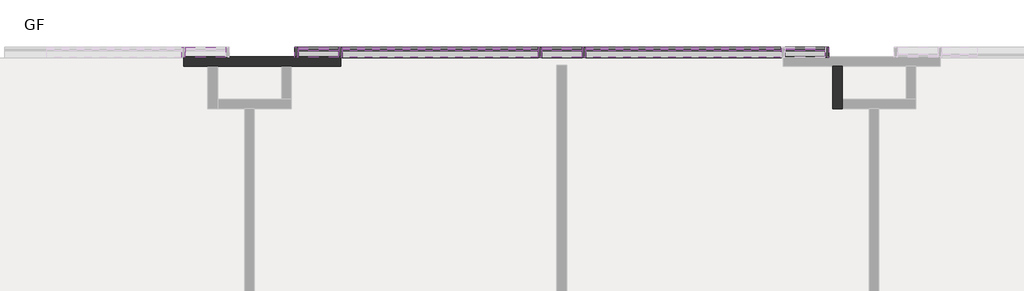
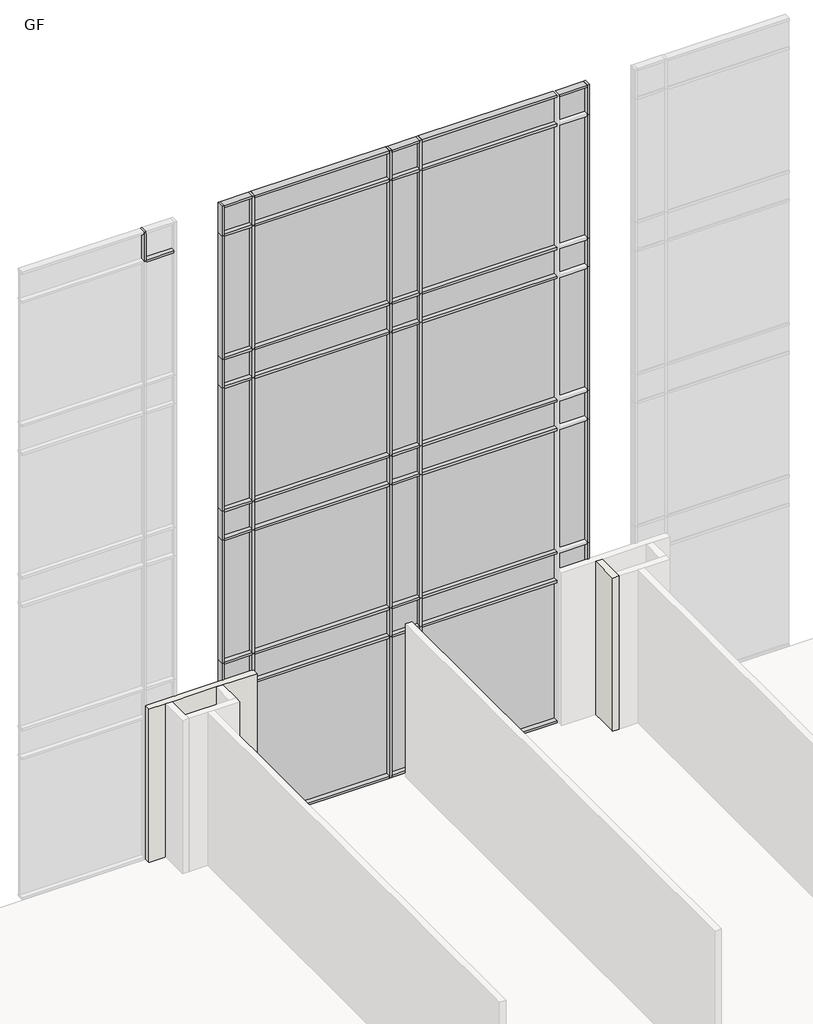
# One storey, part 17 of 23: 81 members, 40 plates, 2 walls.
"""IFC4 building model written with IfcOpenShell, lengths in millimetres."""

from ifc_helpers import new_model, si_unit, origin, place, context, project, spatial, faceted_brep, transform, mapped, element, save
from components import rectangular_mullion_50_x_150mm_64d38db8, rectangular_mullion_50_x_150mm_68b3818a, rectangular_mullion_50_x_150mm_f245f1eb, rectangular_mullion_50_x_150mm_d11e3bb4, rectangular_mullion_50_x_150mm_7d543e93, rectangular_mullion_50_x_150mm_9e0f1e24, rectangular_mullion_50_x_150mm_a95743fc, rectangular_mullion_50_x_150mm_dbb82e9e, rectangular_mullion_50_x_150mm_32aaa733, rectangular_mullion_50_x_150mm_9b8962c0, rectangular_mullion_50_x_150mm_7dcb5a67, rectangular_mullion_50_x_150mm_f1d86669, system_panel_glazed_24812111, system_panel_glazed_e5239730, system_panel_glazed_46705a58, system_panel_glazed_4aba697c, system_panel_glazed_9e59c210, system_panel_glazed_c45102e1

model = new_model("IFC4")

# Units and contexts
model_context = context("Model", 3, world=origin())
ifc_project = project(units=[si_unit("LENGTHUNIT", "METRE", prefix="MILLI")], contexts=[model_context])

# Site, building, storey
site = spatial("IfcSite", under=ifc_project)
building = spatial("IfcBuilding", under=site)
storey = spatial("IfcBuildingStorey", under=building, Name="GF", Elevation=900.0)

# Members
placement = place(None, origin())
rectangular_mullion_50_x_150mm_shape = rectangular_mullion_50_x_150mm_64d38db8(model_context)
element("IfcMember", 1, ObjectType="Rectangular Mullion : 50 x 150mm", at=placement, inside=storey, context=model_context, shape_type="MappedRepresentation", body=[
    mapped(rectangular_mullion_50_x_150mm_shape, transform((-4312.5865899, 21322.3851347, 15125.0), x_axis=(0.0, 0.0, 1.0), y_axis=(0.0, -1.0, 0.0), z_axis=(1.0, 0.0, 0.0))),
])
element("IfcMember", 2, ObjectType="Rectangular Mullion : 50 x 150mm", at=placement, inside=storey, context=model_context, shape_type="MappedRepresentation", body=[
    mapped(rectangular_mullion_50_x_150mm_shape, transform((-11502.5865899, 21322.3851347, 15125.0), x_axis=(0.0, 0.0, 1.0), y_axis=(0.0, -1.0, 0.0), z_axis=(1.0, 0.0, 0.0))),
])
element("IfcMember", 3, ObjectType="Rectangular Mullion : 50 x 150mm", at=placement, inside=storey, context=model_context, shape_type="MappedRepresentation", body=[
    mapped(rectangular_mullion_50_x_150mm_shape, transform((-7907.5865899, 21322.3851347, 15125.0), x_axis=(0.0, 0.0, 1.0), y_axis=(0.0, -1.0, 0.0), z_axis=(1.0, 0.0, 0.0))),
])
element("IfcMember", 4, ObjectType="Rectangular Mullion : 50 x 150mm", at=placement, inside=storey, context=model_context, shape_type="MappedRepresentation", body=[
    mapped(rectangular_mullion_50_x_150mm_shape, transform((-12102.5865899, 21322.3851347, 900.0), x_axis=(0.0, 0.0, -1.0), y_axis=(0.0, -1.0, 0.0), z_axis=(-1.0, 0.0, 0.0))),
])
element("IfcMember", 5, ObjectType="Rectangular Mullion : 50 x 150mm", at=placement, inside=storey, context=model_context, shape_type="MappedRepresentation", body=[
    mapped(rectangular_mullion_50_x_150mm_shape, transform((-8507.5865899, 21322.3851347, 900.0), x_axis=(0.0, 0.0, -1.0), y_axis=(0.0, -1.0, 0.0), z_axis=(-1.0, 0.0, 0.0))),
])
element("IfcMember", 6, ObjectType="Rectangular Mullion : 50 x 150mm", at=placement, inside=storey, context=model_context, shape_type="MappedRepresentation", body=[
    mapped(rectangular_mullion_50_x_150mm_shape, transform((-4912.5865899, 21322.3851347, 900.0), x_axis=(0.0, 0.0, -1.0), y_axis=(0.0, -1.0, 0.0), z_axis=(-1.0, 0.0, 0.0))),
])
rectangular_mullion_50_x_150mm_2_shape = rectangular_mullion_50_x_150mm_68b3818a(model_context)
element("IfcMember", 7, ObjectType="Rectangular Mullion : 50 x 150mm", at=placement, inside=storey, context=model_context, shape_type="MappedRepresentation", body=[
    mapped(rectangular_mullion_50_x_150mm_2_shape, transform((-13172.5865899, 21322.3851347, 14450.0), x_axis=(0.0, 0.0, 1.0), y_axis=(0.0, -1.0, 0.0), z_axis=(1.0, 0.0, 0.0))),
])
element("IfcMember", 8, ObjectType="Rectangular Mullion : 50 x 150mm", at=placement, inside=storey, context=model_context, shape_type="MappedRepresentation", body=[
    mapped(rectangular_mullion_50_x_150mm_2_shape, transform((-11502.5865899, 21322.3851347, 4750.0), x_axis=(0.0, 0.0, 1.0), y_axis=(0.0, -1.0, 0.0), z_axis=(1.0, 0.0, 0.0))),
])
element("IfcMember", 9, ObjectType="Rectangular Mullion : 50 x 150mm", at=placement, inside=storey, context=model_context, shape_type="MappedRepresentation", body=[
    mapped(rectangular_mullion_50_x_150mm_2_shape, transform((-7907.5865899, 21322.3851347, 4750.0), x_axis=(0.0, 0.0, 1.0), y_axis=(0.0, -1.0, 0.0), z_axis=(1.0, 0.0, 0.0))),
])
element("IfcMember", 10, ObjectType="Rectangular Mullion : 50 x 150mm", at=placement, inside=storey, context=model_context, shape_type="MappedRepresentation", body=[
    mapped(rectangular_mullion_50_x_150mm_2_shape, transform((-11502.5865899, 21322.3851347, 4100.0), x_axis=(0.0, 0.0, 1.0), y_axis=(0.0, -1.0, 0.0), z_axis=(1.0, 0.0, 0.0))),
])
element("IfcMember", 11, ObjectType="Rectangular Mullion : 50 x 150mm", at=placement, inside=storey, context=model_context, shape_type="MappedRepresentation", body=[
    mapped(rectangular_mullion_50_x_150mm_2_shape, transform((-7907.5865899, 21322.3851347, 4100.0), x_axis=(0.0, 0.0, 1.0), y_axis=(0.0, -1.0, 0.0), z_axis=(1.0, 0.0, 0.0))),
])
element("IfcMember", 12, ObjectType="Rectangular Mullion : 50 x 150mm", at=placement, inside=storey, context=model_context, shape_type="MappedRepresentation", body=[
    mapped(rectangular_mullion_50_x_150mm_2_shape, transform((-11502.5865899, 21322.3851347, 8200.0), x_axis=(0.0, 0.0, 1.0), y_axis=(0.0, -1.0, 0.0), z_axis=(1.0, 0.0, 0.0))),
])
element("IfcMember", 13, ObjectType="Rectangular Mullion : 50 x 150mm", at=placement, inside=storey, context=model_context, shape_type="MappedRepresentation", body=[
    mapped(rectangular_mullion_50_x_150mm_2_shape, transform((-7907.5865899, 21322.3851347, 8200.0), x_axis=(0.0, 0.0, 1.0), y_axis=(0.0, -1.0, 0.0), z_axis=(1.0, 0.0, 0.0))),
])
element("IfcMember", 14, ObjectType="Rectangular Mullion : 50 x 150mm", at=placement, inside=storey, context=model_context, shape_type="MappedRepresentation", body=[
    mapped(rectangular_mullion_50_x_150mm_2_shape, transform((-11502.5865899, 21322.3851347, 11650.0), x_axis=(0.0, 0.0, 1.0), y_axis=(0.0, -1.0, 0.0), z_axis=(1.0, 0.0, 0.0))),
])
element("IfcMember", 15, ObjectType="Rectangular Mullion : 50 x 150mm", at=placement, inside=storey, context=model_context, shape_type="MappedRepresentation", body=[
    mapped(rectangular_mullion_50_x_150mm_2_shape, transform((-7907.5865899, 21322.3851347, 11650.0), x_axis=(0.0, 0.0, 1.0), y_axis=(0.0, -1.0, 0.0), z_axis=(1.0, 0.0, 0.0))),
])
element("IfcMember", 16, ObjectType="Rectangular Mullion : 50 x 150mm", at=placement, inside=storey, context=model_context, shape_type="MappedRepresentation", body=[
    mapped(rectangular_mullion_50_x_150mm_2_shape, transform((-11502.5865899, 21322.3851347, 7550.0), x_axis=(0.0, 0.0, 1.0), y_axis=(0.0, -1.0, 0.0), z_axis=(1.0, 0.0, 0.0))),
])
element("IfcMember", 17, ObjectType="Rectangular Mullion : 50 x 150mm", at=placement, inside=storey, context=model_context, shape_type="MappedRepresentation", body=[
    mapped(rectangular_mullion_50_x_150mm_2_shape, transform((-7907.5865899, 21322.3851347, 7550.0), x_axis=(0.0, 0.0, 1.0), y_axis=(0.0, -1.0, 0.0), z_axis=(1.0, 0.0, 0.0))),
])
element("IfcMember", 18, ObjectType="Rectangular Mullion : 50 x 150mm", at=placement, inside=storey, context=model_context, shape_type="MappedRepresentation", body=[
    mapped(rectangular_mullion_50_x_150mm_2_shape, transform((-11502.5865899, 21322.3851347, 11000.0), x_axis=(0.0, 0.0, 1.0), y_axis=(0.0, -1.0, 0.0), z_axis=(1.0, 0.0, 0.0))),
])
element("IfcMember", 19, ObjectType="Rectangular Mullion : 50 x 150mm", at=placement, inside=storey, context=model_context, shape_type="MappedRepresentation", body=[
    mapped(rectangular_mullion_50_x_150mm_2_shape, transform((-7907.5865899, 21322.3851347, 11000.0), x_axis=(0.0, 0.0, 1.0), y_axis=(0.0, -1.0, 0.0), z_axis=(1.0, 0.0, 0.0))),
])
element("IfcMember", 20, ObjectType="Rectangular Mullion : 50 x 150mm", at=placement, inside=storey, context=model_context, shape_type="MappedRepresentation", body=[
    mapped(rectangular_mullion_50_x_150mm_2_shape, transform((-11502.5865899, 21322.3851347, 14450.0), x_axis=(0.0, 0.0, 1.0), y_axis=(0.0, -1.0, 0.0), z_axis=(1.0, 0.0, 0.0))),
])
element("IfcMember", 21, ObjectType="Rectangular Mullion : 50 x 150mm", at=placement, inside=storey, context=model_context, shape_type="MappedRepresentation", body=[
    mapped(rectangular_mullion_50_x_150mm_2_shape, transform((-7907.5865899, 21322.3851347, 14450.0), x_axis=(0.0, 0.0, 1.0), y_axis=(0.0, -1.0, 0.0), z_axis=(1.0, 0.0, 0.0))),
])
element("IfcMember", 22, ObjectType="Rectangular Mullion : 50 x 150mm", at=placement, inside=storey, context=model_context, shape_type="MappedRepresentation", body=[
    mapped(rectangular_mullion_50_x_150mm_2_shape, transform((-4312.5865899, 21322.3851347, 4100.0), x_axis=(0.0, 0.0, 1.0), y_axis=(0.0, -1.0, 0.0), z_axis=(1.0, 0.0, 0.0))),
])
rectangular_mullion_50_x_150mm_3_shape = rectangular_mullion_50_x_150mm_f245f1eb(model_context)
element("IfcMember", 23, ObjectType="Rectangular Mullion : 50 x 150mm", at=placement, inside=storey, context=model_context, shape_type="MappedRepresentation", body=[
    mapped(rectangular_mullion_50_x_150mm_3_shape, transform((-11477.5865899, 21322.3851347, 900.0), x_axis=(1.0, 0.0, 0.0), y_axis=(0.0, -1.0, 0.0), z_axis=(0.0, 0.0, -1.0))),
])
element("IfcMember", 24, ObjectType="Rectangular Mullion : 50 x 150mm", at=placement, inside=storey, context=model_context, shape_type="MappedRepresentation", body=[
    mapped(rectangular_mullion_50_x_150mm_3_shape, transform((-8532.5865899, 21322.3851347, 900.0), x_axis=(1.0, 0.0, 0.0), y_axis=(0.0, -1.0, 0.0), z_axis=(0.0, 0.0, -1.0))),
])
element("IfcMember", 25, ObjectType="Rectangular Mullion : 50 x 150mm", at=placement, inside=storey, context=model_context, shape_type="MappedRepresentation", body=[
    mapped(rectangular_mullion_50_x_150mm_3_shape, transform((-7882.5865899, 21322.3851347, 900.0), x_axis=(1.0, 0.0, 0.0), y_axis=(0.0, -1.0, 0.0), z_axis=(0.0, 0.0, -1.0))),
])
rectangular_mullion_50_x_150mm_4_shape = rectangular_mullion_50_x_150mm_d11e3bb4(model_context)
element("IfcMember", 26, ObjectType="Rectangular Mullion : 50 x 150mm", at=placement, inside=storey, context=model_context, shape_type="MappedRepresentation", body=[
    mapped(rectangular_mullion_50_x_150mm_4_shape, transform((-11477.5865899, 21322.3851347, 4750.0), x_axis=(1.0, 0.0, 0.0), y_axis=(0.0, -1.0, 0.0), z_axis=(0.0, 0.0, -1.0))),
])
element("IfcMember", 27, ObjectType="Rectangular Mullion : 50 x 150mm", at=placement, inside=storey, context=model_context, shape_type="MappedRepresentation", body=[
    mapped(rectangular_mullion_50_x_150mm_4_shape, transform((-8532.5865899, 21322.3851347, 4750.0), x_axis=(1.0, 0.0, 0.0), y_axis=(0.0, -1.0, 0.0), z_axis=(0.0, 0.0, -1.0))),
])
element("IfcMember", 28, ObjectType="Rectangular Mullion : 50 x 150mm", at=placement, inside=storey, context=model_context, shape_type="MappedRepresentation", body=[
    mapped(rectangular_mullion_50_x_150mm_4_shape, transform((-11477.5865899, 21322.3851347, 8200.0), x_axis=(1.0, 0.0, 0.0), y_axis=(0.0, -1.0, 0.0), z_axis=(0.0, 0.0, -1.0))),
])
element("IfcMember", 29, ObjectType="Rectangular Mullion : 50 x 150mm", at=placement, inside=storey, context=model_context, shape_type="MappedRepresentation", body=[
    mapped(rectangular_mullion_50_x_150mm_4_shape, transform((-8532.5865899, 21322.3851347, 8200.0), x_axis=(1.0, 0.0, 0.0), y_axis=(0.0, -1.0, 0.0), z_axis=(0.0, 0.0, -1.0))),
])
element("IfcMember", 30, ObjectType="Rectangular Mullion : 50 x 150mm", at=placement, inside=storey, context=model_context, shape_type="MappedRepresentation", body=[
    mapped(rectangular_mullion_50_x_150mm_4_shape, transform((-11477.5865899, 21322.3851347, 11650.0), x_axis=(1.0, 0.0, 0.0), y_axis=(0.0, -1.0, 0.0), z_axis=(0.0, 0.0, -1.0))),
])
element("IfcMember", 31, ObjectType="Rectangular Mullion : 50 x 150mm", at=placement, inside=storey, context=model_context, shape_type="MappedRepresentation", body=[
    mapped(rectangular_mullion_50_x_150mm_4_shape, transform((-8532.5865899, 21322.3851347, 11650.0), x_axis=(1.0, 0.0, 0.0), y_axis=(0.0, -1.0, 0.0), z_axis=(0.0, 0.0, -1.0))),
])
element("IfcMember", 32, ObjectType="Rectangular Mullion : 50 x 150mm", at=placement, inside=storey, context=model_context, shape_type="MappedRepresentation", body=[
    mapped(rectangular_mullion_50_x_150mm_4_shape, transform((-7882.5865899, 21322.3851347, 4750.0), x_axis=(1.0, 0.0, 0.0), y_axis=(0.0, -1.0, 0.0), z_axis=(0.0, 0.0, -1.0))),
])
element("IfcMember", 33, ObjectType="Rectangular Mullion : 50 x 150mm", at=placement, inside=storey, context=model_context, shape_type="MappedRepresentation", body=[
    mapped(rectangular_mullion_50_x_150mm_4_shape, transform((-7882.5865899, 21322.3851347, 8200.0), x_axis=(1.0, 0.0, 0.0), y_axis=(0.0, -1.0, 0.0), z_axis=(0.0, 0.0, -1.0))),
])
element("IfcMember", 34, ObjectType="Rectangular Mullion : 50 x 150mm", at=placement, inside=storey, context=model_context, shape_type="MappedRepresentation", body=[
    mapped(rectangular_mullion_50_x_150mm_4_shape, transform((-7882.5865899, 21322.3851347, 11650.0), x_axis=(1.0, 0.0, 0.0), y_axis=(0.0, -1.0, 0.0), z_axis=(0.0, 0.0, -1.0))),
])
rectangular_mullion_50_x_150mm_5_shape = rectangular_mullion_50_x_150mm_7d543e93(model_context)
element("IfcMember", 35, ObjectType="Rectangular Mullion : 50 x 150mm", at=placement, inside=storey, context=model_context, shape_type="MappedRepresentation", body=[
    mapped(rectangular_mullion_50_x_150mm_5_shape, transform((-11477.5865899, 21322.3851347, 4100.0), x_axis=(1.0, 0.0, 0.0), y_axis=(0.0, -1.0, 0.0), z_axis=(0.0, 0.0, -1.0))),
])
element("IfcMember", 36, ObjectType="Rectangular Mullion : 50 x 150mm", at=placement, inside=storey, context=model_context, shape_type="MappedRepresentation", body=[
    mapped(rectangular_mullion_50_x_150mm_5_shape, transform((-8532.5865899, 21322.3851347, 4100.0), x_axis=(1.0, 0.0, 0.0), y_axis=(0.0, -1.0, 0.0), z_axis=(0.0, 0.0, -1.0))),
])
element("IfcMember", 37, ObjectType="Rectangular Mullion : 50 x 150mm", at=placement, inside=storey, context=model_context, shape_type="MappedRepresentation", body=[
    mapped(rectangular_mullion_50_x_150mm_5_shape, transform((-11477.5865899, 21322.3851347, 7550.0), x_axis=(1.0, 0.0, 0.0), y_axis=(0.0, -1.0, 0.0), z_axis=(0.0, 0.0, -1.0))),
])
element("IfcMember", 38, ObjectType="Rectangular Mullion : 50 x 150mm", at=placement, inside=storey, context=model_context, shape_type="MappedRepresentation", body=[
    mapped(rectangular_mullion_50_x_150mm_5_shape, transform((-8532.5865899, 21322.3851347, 7550.0), x_axis=(1.0, 0.0, 0.0), y_axis=(0.0, -1.0, 0.0), z_axis=(0.0, 0.0, -1.0))),
])
element("IfcMember", 39, ObjectType="Rectangular Mullion : 50 x 150mm", at=placement, inside=storey, context=model_context, shape_type="MappedRepresentation", body=[
    mapped(rectangular_mullion_50_x_150mm_5_shape, transform((-11477.5865899, 21322.3851347, 11000.0), x_axis=(1.0, 0.0, 0.0), y_axis=(0.0, -1.0, 0.0), z_axis=(0.0, 0.0, -1.0))),
])
element("IfcMember", 40, ObjectType="Rectangular Mullion : 50 x 150mm", at=placement, inside=storey, context=model_context, shape_type="MappedRepresentation", body=[
    mapped(rectangular_mullion_50_x_150mm_5_shape, transform((-8532.5865899, 21322.3851347, 11000.0), x_axis=(1.0, 0.0, 0.0), y_axis=(0.0, -1.0, 0.0), z_axis=(0.0, 0.0, -1.0))),
])
element("IfcMember", 41, ObjectType="Rectangular Mullion : 50 x 150mm", at=placement, inside=storey, context=model_context, shape_type="MappedRepresentation", body=[
    mapped(rectangular_mullion_50_x_150mm_5_shape, transform((-7882.5865899, 21322.3851347, 4100.0), x_axis=(1.0, 0.0, 0.0), y_axis=(0.0, -1.0, 0.0), z_axis=(0.0, 0.0, -1.0))),
])
element("IfcMember", 42, ObjectType="Rectangular Mullion : 50 x 150mm", at=placement, inside=storey, context=model_context, shape_type="MappedRepresentation", body=[
    mapped(rectangular_mullion_50_x_150mm_5_shape, transform((-7882.5865899, 21322.3851347, 7550.0), x_axis=(1.0, 0.0, 0.0), y_axis=(0.0, -1.0, 0.0), z_axis=(0.0, 0.0, -1.0))),
])
element("IfcMember", 43, ObjectType="Rectangular Mullion : 50 x 150mm", at=placement, inside=storey, context=model_context, shape_type="MappedRepresentation", body=[
    mapped(rectangular_mullion_50_x_150mm_5_shape, transform((-7882.5865899, 21322.3851347, 11000.0), x_axis=(1.0, 0.0, 0.0), y_axis=(0.0, -1.0, 0.0), z_axis=(0.0, 0.0, -1.0))),
])
rectangular_mullion_50_x_150mm_6_shape = rectangular_mullion_50_x_150mm_9e0f1e24(model_context)
element("IfcMember", 44, ObjectType="Rectangular Mullion : 50 x 150mm", at=placement, inside=storey, context=model_context, shape_type="MappedRepresentation", body=[
    mapped(rectangular_mullion_50_x_150mm_6_shape, transform((-13797.5865899, 21322.3851347, 14450.0), x_axis=(1.0, 0.0, 0.0), y_axis=(0.0, -1.0, 0.0), z_axis=(0.0, 0.0, -1.0))),
])
element("IfcMember", 45, ObjectType="Rectangular Mullion : 50 x 150mm", at=placement, inside=storey, context=model_context, shape_type="MappedRepresentation", body=[
    mapped(rectangular_mullion_50_x_150mm_6_shape, transform((-11477.5865899, 21322.3851347, 14450.0), x_axis=(1.0, 0.0, 0.0), y_axis=(0.0, -1.0, 0.0), z_axis=(0.0, 0.0, -1.0))),
])
element("IfcMember", 46, ObjectType="Rectangular Mullion : 50 x 150mm", at=placement, inside=storey, context=model_context, shape_type="MappedRepresentation", body=[
    mapped(rectangular_mullion_50_x_150mm_6_shape, transform((-8532.5865899, 21322.3851347, 14450.0), x_axis=(1.0, 0.0, 0.0), y_axis=(0.0, -1.0, 0.0), z_axis=(0.0, 0.0, -1.0))),
])
element("IfcMember", 47, ObjectType="Rectangular Mullion : 50 x 150mm", at=placement, inside=storey, context=model_context, shape_type="MappedRepresentation", body=[
    mapped(rectangular_mullion_50_x_150mm_6_shape, transform((-7882.5865899, 21322.3851347, 14450.0), x_axis=(1.0, 0.0, 0.0), y_axis=(0.0, -1.0, 0.0), z_axis=(0.0, 0.0, -1.0))),
])
rectangular_mullion_50_x_150mm_7_shape = rectangular_mullion_50_x_150mm_a95743fc(model_context)
element("IfcMember", 48, ObjectType="Rectangular Mullion : 50 x 150mm", at=placement, inside=storey, context=model_context, shape_type="MappedRepresentation", body=[
    mapped(rectangular_mullion_50_x_150mm_7_shape, transform((-4262.5865899, 21322.3851347, 900.0), x_axis=(1.0, 0.0, 0.0), y_axis=(0.0, -1.0, 0.0), z_axis=(0.0, 0.0, -1.0))),
])
rectangular_mullion_50_x_150mm_8_shape = rectangular_mullion_50_x_150mm_dbb82e9e(model_context)
element("IfcMember", 49, ObjectType="Rectangular Mullion : 50 x 150mm", at=placement, inside=storey, context=model_context, shape_type="MappedRepresentation", body=[
    mapped(rectangular_mullion_50_x_150mm_8_shape, transform((-12152.5865899, 21322.3851347, 15125.0), x_axis=(-1.0, 0.0, 0.0), y_axis=(0.0, -1.0, 0.0), z_axis=(0.0, 0.0, 1.0))),
])
rectangular_mullion_50_x_150mm_9_shape = rectangular_mullion_50_x_150mm_32aaa733(model_context)
element("IfcMember", 50, ObjectType="Rectangular Mullion : 50 x 150mm", at=placement, inside=storey, context=model_context, shape_type="MappedRepresentation", body=[
    mapped(rectangular_mullion_50_x_150mm_9_shape, transform((-4262.5865899, 21322.3851347, 4750.0), x_axis=(1.0, 0.0, 0.0), y_axis=(0.0, -1.0, 0.0), z_axis=(0.0, 0.0, -1.0))),
])
element("IfcMember", 51, ObjectType="Rectangular Mullion : 50 x 150mm", at=placement, inside=storey, context=model_context, shape_type="MappedRepresentation", body=[
    mapped(rectangular_mullion_50_x_150mm_9_shape, transform((-4262.5865899, 21322.3851347, 8200.0), x_axis=(1.0, 0.0, 0.0), y_axis=(0.0, -1.0, 0.0), z_axis=(0.0, 0.0, -1.0))),
])
element("IfcMember", 52, ObjectType="Rectangular Mullion : 50 x 150mm", at=placement, inside=storey, context=model_context, shape_type="MappedRepresentation", body=[
    mapped(rectangular_mullion_50_x_150mm_9_shape, transform((-4262.5865899, 21322.3851347, 11650.0), x_axis=(1.0, 0.0, 0.0), y_axis=(0.0, -1.0, 0.0), z_axis=(0.0, 0.0, -1.0))),
])
rectangular_mullion_50_x_150mm_10_shape = rectangular_mullion_50_x_150mm_9b8962c0(model_context)
element("IfcMember", 53, ObjectType="Rectangular Mullion : 50 x 150mm", at=placement, inside=storey, context=model_context, shape_type="MappedRepresentation", body=[
    mapped(rectangular_mullion_50_x_150mm_10_shape, transform((-12152.5865899, 21322.3851347, 4750.0), x_axis=(-1.0, 0.0, 0.0), y_axis=(0.0, -1.0, 0.0), z_axis=(0.0, 0.0, 1.0))),
])
element("IfcMember", 54, ObjectType="Rectangular Mullion : 50 x 150mm", at=placement, inside=storey, context=model_context, shape_type="MappedRepresentation", body=[
    mapped(rectangular_mullion_50_x_150mm_10_shape, transform((-12152.5865899, 21322.3851347, 8200.0), x_axis=(-1.0, 0.0, 0.0), y_axis=(0.0, -1.0, 0.0), z_axis=(0.0, 0.0, 1.0))),
])
element("IfcMember", 55, ObjectType="Rectangular Mullion : 50 x 150mm", at=placement, inside=storey, context=model_context, shape_type="MappedRepresentation", body=[
    mapped(rectangular_mullion_50_x_150mm_10_shape, transform((-12152.5865899, 21322.3851347, 11650.0), x_axis=(-1.0, 0.0, 0.0), y_axis=(0.0, -1.0, 0.0), z_axis=(0.0, 0.0, 1.0))),
])
element("IfcMember", 56, ObjectType="Rectangular Mullion : 50 x 150mm", at=placement, inside=storey, context=model_context, shape_type="MappedRepresentation", body=[
    mapped(rectangular_mullion_50_x_150mm_10_shape, transform((-4262.5865899, 21322.3851347, 4100.0), x_axis=(1.0, 0.0, 0.0), y_axis=(0.0, -1.0, 0.0), z_axis=(0.0, 0.0, -1.0))),
])
element("IfcMember", 57, ObjectType="Rectangular Mullion : 50 x 150mm", at=placement, inside=storey, context=model_context, shape_type="MappedRepresentation", body=[
    mapped(rectangular_mullion_50_x_150mm_10_shape, transform((-4262.5865899, 21322.3851347, 7550.0), x_axis=(1.0, 0.0, 0.0), y_axis=(0.0, -1.0, 0.0), z_axis=(0.0, 0.0, -1.0))),
])
element("IfcMember", 58, ObjectType="Rectangular Mullion : 50 x 150mm", at=placement, inside=storey, context=model_context, shape_type="MappedRepresentation", body=[
    mapped(rectangular_mullion_50_x_150mm_10_shape, transform((-4262.5865899, 21322.3851347, 11000.0), x_axis=(1.0, 0.0, 0.0), y_axis=(0.0, -1.0, 0.0), z_axis=(0.0, 0.0, -1.0))),
])
element("IfcMember", 59, ObjectType="Rectangular Mullion : 50 x 150mm", at=placement, inside=storey, context=model_context, shape_type="MappedRepresentation", body=[
    mapped(rectangular_mullion_50_x_150mm_7_shape, transform((-12152.5865899, 21322.3851347, 4100.0), x_axis=(-1.0, 0.0, 0.0), y_axis=(0.0, -1.0, 0.0), z_axis=(0.0, 0.0, 1.0))),
])
element("IfcMember", 60, ObjectType="Rectangular Mullion : 50 x 150mm", at=placement, inside=storey, context=model_context, shape_type="MappedRepresentation", body=[
    mapped(rectangular_mullion_50_x_150mm_9_shape, transform((-12152.5865899, 21322.3851347, 7550.0), x_axis=(-1.0, 0.0, 0.0), y_axis=(0.0, -1.0, 0.0), z_axis=(0.0, 0.0, 1.0))),
])
element("IfcMember", 61, ObjectType="Rectangular Mullion : 50 x 150mm", at=placement, inside=storey, context=model_context, shape_type="MappedRepresentation", body=[
    mapped(rectangular_mullion_50_x_150mm_9_shape, transform((-12152.5865899, 21322.3851347, 11000.0), x_axis=(-1.0, 0.0, 0.0), y_axis=(0.0, -1.0, 0.0), z_axis=(0.0, 0.0, 1.0))),
])
element("IfcMember", 62, ObjectType="Rectangular Mullion : 50 x 150mm", at=placement, inside=storey, context=model_context, shape_type="MappedRepresentation", body=[
    mapped(rectangular_mullion_50_x_150mm_9_shape, transform((-12152.5865899, 21322.3851347, 14450.0), x_axis=(-1.0, 0.0, 0.0), y_axis=(0.0, -1.0, 0.0), z_axis=(0.0, 0.0, 1.0))),
])
element("IfcMember", 63, ObjectType="Rectangular Mullion : 50 x 150mm", at=placement, inside=storey, context=model_context, shape_type="MappedRepresentation", body=[
    mapped(rectangular_mullion_50_x_150mm_8_shape, transform((-4262.5865899, 21322.3851347, 14450.0), x_axis=(1.0, 0.0, 0.0), y_axis=(0.0, -1.0, 0.0), z_axis=(0.0, 0.0, -1.0))),
])
rectangular_mullion_50_x_150mm_11_shape = rectangular_mullion_50_x_150mm_7dcb5a67(model_context)
element("IfcMember", 64, ObjectType="Rectangular Mullion : 50 x 150mm", at=placement, inside=storey, context=model_context, shape_type="MappedRepresentation", body=[
    mapped(rectangular_mullion_50_x_150mm_11_shape, transform((-11452.5865899, 21322.3851347, 900.0), x_axis=(0.0, 0.0, -1.0), y_axis=(0.0, -1.0, 0.0), z_axis=(-1.0, 0.0, 0.0))),
])
element("IfcMember", 65, ObjectType="Rectangular Mullion : 50 x 150mm", at=placement, inside=storey, context=model_context, shape_type="MappedRepresentation", body=[
    mapped(rectangular_mullion_50_x_150mm_11_shape, transform((-7857.5865899, 21322.3851347, 900.0), x_axis=(0.0, 0.0, -1.0), y_axis=(0.0, -1.0, 0.0), z_axis=(-1.0, 0.0, 0.0))),
])
element("IfcMember", 66, ObjectType="Rectangular Mullion : 50 x 150mm", at=placement, inside=storey, context=model_context, shape_type="MappedRepresentation", body=[
    mapped(rectangular_mullion_50_x_150mm_11_shape, transform((-8557.5865899, 21322.3851347, 15125.0), x_axis=(0.0, 0.0, 1.0), y_axis=(0.0, -1.0, 0.0), z_axis=(1.0, 0.0, 0.0))),
])
element("IfcMember", 67, ObjectType="Rectangular Mullion : 50 x 150mm", at=placement, inside=storey, context=model_context, shape_type="MappedRepresentation", body=[
    mapped(rectangular_mullion_50_x_150mm_11_shape, transform((-4962.5865899, 21322.3851347, 15125.0), x_axis=(0.0, 0.0, 1.0), y_axis=(0.0, -1.0, 0.0), z_axis=(1.0, 0.0, 0.0))),
])
rectangular_mullion_50_x_150mm_12_shape = rectangular_mullion_50_x_150mm_f1d86669(model_context)
element("IfcMember", 68, ObjectType="Rectangular Mullion : 50 x 150mm", at=placement, inside=storey, context=model_context, shape_type="MappedRepresentation", body=[
    mapped(rectangular_mullion_50_x_150mm_12_shape, transform((-8557.5865899, 21322.3851347, 4750.0), x_axis=(0.0, 0.0, 1.0), y_axis=(0.0, -1.0, 0.0), z_axis=(1.0, 0.0, 0.0))),
])
element("IfcMember", 69, ObjectType="Rectangular Mullion : 50 x 150mm", at=placement, inside=storey, context=model_context, shape_type="MappedRepresentation", body=[
    mapped(rectangular_mullion_50_x_150mm_12_shape, transform((-8557.5865899, 21322.3851347, 4100.0), x_axis=(0.0, 0.0, 1.0), y_axis=(0.0, -1.0, 0.0), z_axis=(1.0, 0.0, 0.0))),
])
element("IfcMember", 70, ObjectType="Rectangular Mullion : 50 x 150mm", at=placement, inside=storey, context=model_context, shape_type="MappedRepresentation", body=[
    mapped(rectangular_mullion_50_x_150mm_12_shape, transform((-8557.5865899, 21322.3851347, 8200.0), x_axis=(0.0, 0.0, 1.0), y_axis=(0.0, -1.0, 0.0), z_axis=(1.0, 0.0, 0.0))),
])
element("IfcMember", 71, ObjectType="Rectangular Mullion : 50 x 150mm", at=placement, inside=storey, context=model_context, shape_type="MappedRepresentation", body=[
    mapped(rectangular_mullion_50_x_150mm_12_shape, transform((-8557.5865899, 21322.3851347, 11650.0), x_axis=(0.0, 0.0, 1.0), y_axis=(0.0, -1.0, 0.0), z_axis=(1.0, 0.0, 0.0))),
])
element("IfcMember", 72, ObjectType="Rectangular Mullion : 50 x 150mm", at=placement, inside=storey, context=model_context, shape_type="MappedRepresentation", body=[
    mapped(rectangular_mullion_50_x_150mm_12_shape, transform((-8557.5865899, 21322.3851347, 7550.0), x_axis=(0.0, 0.0, 1.0), y_axis=(0.0, -1.0, 0.0), z_axis=(1.0, 0.0, 0.0))),
])
element("IfcMember", 73, ObjectType="Rectangular Mullion : 50 x 150mm", at=placement, inside=storey, context=model_context, shape_type="MappedRepresentation", body=[
    mapped(rectangular_mullion_50_x_150mm_12_shape, transform((-8557.5865899, 21322.3851347, 11000.0), x_axis=(0.0, 0.0, 1.0), y_axis=(0.0, -1.0, 0.0), z_axis=(1.0, 0.0, 0.0))),
])
element("IfcMember", 74, ObjectType="Rectangular Mullion : 50 x 150mm", at=placement, inside=storey, context=model_context, shape_type="MappedRepresentation", body=[
    mapped(rectangular_mullion_50_x_150mm_12_shape, transform((-8557.5865899, 21322.3851347, 14450.0), x_axis=(0.0, 0.0, 1.0), y_axis=(0.0, -1.0, 0.0), z_axis=(1.0, 0.0, 0.0))),
])
element("IfcMember", 75, ObjectType="Rectangular Mullion : 50 x 150mm", at=placement, inside=storey, context=model_context, shape_type="MappedRepresentation", body=[
    mapped(rectangular_mullion_50_x_150mm_12_shape, transform((-4962.5865899, 21322.3851347, 4100.0), x_axis=(0.0, 0.0, 1.0), y_axis=(0.0, -1.0, 0.0), z_axis=(1.0, 0.0, 0.0))),
])
element("IfcMember", 76, ObjectType="Rectangular Mullion : 50 x 150mm", at=placement, inside=storey, context=model_context, shape_type="MappedRepresentation", body=[
    mapped(rectangular_mullion_50_x_150mm_12_shape, transform((-4962.5865899, 21322.3851347, 4750.0), x_axis=(0.0, 0.0, 1.0), y_axis=(0.0, -1.0, 0.0), z_axis=(1.0, 0.0, 0.0))),
])
element("IfcMember", 77, ObjectType="Rectangular Mullion : 50 x 150mm", at=placement, inside=storey, context=model_context, shape_type="MappedRepresentation", body=[
    mapped(rectangular_mullion_50_x_150mm_12_shape, transform((-4962.5865899, 21322.3851347, 7550.0), x_axis=(0.0, 0.0, 1.0), y_axis=(0.0, -1.0, 0.0), z_axis=(1.0, 0.0, 0.0))),
])
element("IfcMember", 78, ObjectType="Rectangular Mullion : 50 x 150mm", at=placement, inside=storey, context=model_context, shape_type="MappedRepresentation", body=[
    mapped(rectangular_mullion_50_x_150mm_12_shape, transform((-4962.5865899, 21322.3851347, 8200.0), x_axis=(0.0, 0.0, 1.0), y_axis=(0.0, -1.0, 0.0), z_axis=(1.0, 0.0, 0.0))),
])
element("IfcMember", 79, ObjectType="Rectangular Mullion : 50 x 150mm", at=placement, inside=storey, context=model_context, shape_type="MappedRepresentation", body=[
    mapped(rectangular_mullion_50_x_150mm_12_shape, transform((-4962.5865899, 21322.3851347, 11000.0), x_axis=(0.0, 0.0, 1.0), y_axis=(0.0, -1.0, 0.0), z_axis=(1.0, 0.0, 0.0))),
])
element("IfcMember", 80, ObjectType="Rectangular Mullion : 50 x 150mm", at=placement, inside=storey, context=model_context, shape_type="MappedRepresentation", body=[
    mapped(rectangular_mullion_50_x_150mm_12_shape, transform((-4962.5865899, 21322.3851347, 11650.0), x_axis=(0.0, 0.0, 1.0), y_axis=(0.0, -1.0, 0.0), z_axis=(1.0, 0.0, 0.0))),
])
element("IfcMember", 81, ObjectType="Rectangular Mullion : 50 x 150mm", at=placement, inside=storey, context=model_context, shape_type="MappedRepresentation", body=[
    mapped(rectangular_mullion_50_x_150mm_12_shape, transform((-4962.5865899, 21322.3851347, 14450.0), x_axis=(0.0, 0.0, 1.0), y_axis=(0.0, -1.0, 0.0), z_axis=(1.0, 0.0, 0.0))),
])

# Plates
system_panel_glazed_shape = system_panel_glazed_24812111(model_context)
element("IfcPlate", 82, ObjectType="System Panel : Glazed", at=placement, inside=storey, context=model_context, shape_type="MappedRepresentation", body=[
    mapped(system_panel_glazed_shape, transform((-11802.5865899, 21322.3851347, 4125.0), x_axis=(1.0, 0.0, 0.0), y_axis=(0.0, 1.0, 0.0), z_axis=(0.0, 0.0, 1.0))),
])
element("IfcPlate", 83, ObjectType="System Panel : Glazed", at=placement, inside=storey, context=model_context, shape_type="MappedRepresentation", body=[
    mapped(system_panel_glazed_shape, transform((-8207.5865899, 21322.3851347, 4125.0), x_axis=(1.0, 0.0, 0.0), y_axis=(0.0, 1.0, 0.0), z_axis=(0.0, 0.0, 1.0))),
])
element("IfcPlate", 84, ObjectType="System Panel : Glazed", at=placement, inside=storey, context=model_context, shape_type="MappedRepresentation", body=[
    mapped(system_panel_glazed_shape, transform((-11802.5865899, 21322.3851347, 7575.0), x_axis=(1.0, 0.0, 0.0), y_axis=(0.0, 1.0, 0.0), z_axis=(0.0, 0.0, 1.0))),
])
element("IfcPlate", 85, ObjectType="System Panel : Glazed", at=placement, inside=storey, context=model_context, shape_type="MappedRepresentation", body=[
    mapped(system_panel_glazed_shape, transform((-8207.5865899, 21322.3851347, 7575.0), x_axis=(1.0, 0.0, 0.0), y_axis=(0.0, 1.0, 0.0), z_axis=(0.0, 0.0, 1.0))),
])
element("IfcPlate", 86, ObjectType="System Panel : Glazed", at=placement, inside=storey, context=model_context, shape_type="MappedRepresentation", body=[
    mapped(system_panel_glazed_shape, transform((-11802.5865899, 21322.3851347, 11025.0), x_axis=(1.0, 0.0, 0.0), y_axis=(0.0, 1.0, 0.0), z_axis=(0.0, 0.0, 1.0))),
])
element("IfcPlate", 87, ObjectType="System Panel : Glazed", at=placement, inside=storey, context=model_context, shape_type="MappedRepresentation", body=[
    mapped(system_panel_glazed_shape, transform((-8207.5865899, 21322.3851347, 11025.0), x_axis=(1.0, 0.0, 0.0), y_axis=(0.0, 1.0, 0.0), z_axis=(0.0, 0.0, 1.0))),
])
element("IfcPlate", 88, ObjectType="System Panel : Glazed", at=placement, inside=storey, context=model_context, shape_type="MappedRepresentation", body=[
    mapped(system_panel_glazed_shape, transform((-11802.5865899, 21322.3851347, 14475.0), x_axis=(1.0, 0.0, 0.0), y_axis=(0.0, 1.0, 0.0), z_axis=(0.0, 0.0, 1.0))),
])
element("IfcPlate", 89, ObjectType="System Panel : Glazed", at=placement, inside=storey, context=model_context, shape_type="MappedRepresentation", body=[
    mapped(system_panel_glazed_shape, transform((-8207.5865899, 21322.3851347, 14475.0), x_axis=(1.0, 0.0, 0.0), y_axis=(0.0, 1.0, 0.0), z_axis=(0.0, 0.0, 1.0))),
])
element("IfcPlate", 90, ObjectType="System Panel : Glazed", at=placement, inside=storey, context=model_context, shape_type="MappedRepresentation", body=[
    mapped(system_panel_glazed_shape, transform((-4612.5865899, 21322.3851347, 4125.0), x_axis=(1.0, 0.0, 0.0), y_axis=(0.0, 1.0, 0.0), z_axis=(0.0, 0.0, 1.0))),
])
element("IfcPlate", 91, ObjectType="System Panel : Glazed", at=placement, inside=storey, context=model_context, shape_type="MappedRepresentation", body=[
    mapped(system_panel_glazed_shape, transform((-4612.5865899, 21322.3851347, 7575.0), x_axis=(1.0, 0.0, 0.0), y_axis=(0.0, 1.0, 0.0), z_axis=(0.0, 0.0, 1.0))),
])
element("IfcPlate", 92, ObjectType="System Panel : Glazed", at=placement, inside=storey, context=model_context, shape_type="MappedRepresentation", body=[
    mapped(system_panel_glazed_shape, transform((-4612.5865899, 21322.3851347, 11025.0), x_axis=(1.0, 0.0, 0.0), y_axis=(0.0, 1.0, 0.0), z_axis=(0.0, 0.0, 1.0))),
])
element("IfcPlate", 93, ObjectType="System Panel : Glazed", at=placement, inside=storey, context=model_context, shape_type="MappedRepresentation", body=[
    mapped(system_panel_glazed_shape, transform((-4612.5865899, 21322.3851347, 14475.0), x_axis=(1.0, 0.0, 0.0), y_axis=(0.0, 1.0, 0.0), z_axis=(0.0, 0.0, 1.0))),
])
system_panel_glazed_2_shape = system_panel_glazed_e5239730(model_context)
element("IfcPlate", 94, ObjectType="System Panel : Glazed", at=placement, inside=storey, context=model_context, shape_type="MappedRepresentation", body=[
    mapped(system_panel_glazed_2_shape, transform((-11802.5865899, 21322.3851347, 4775.0), x_axis=(1.0, 0.0, 0.0), y_axis=(0.0, 1.0, 0.0), z_axis=(0.0, 0.0, 1.0))),
])
element("IfcPlate", 95, ObjectType="System Panel : Glazed", at=placement, inside=storey, context=model_context, shape_type="MappedRepresentation", body=[
    mapped(system_panel_glazed_2_shape, transform((-8207.5865899, 21322.3851347, 4775.0), x_axis=(1.0, 0.0, 0.0), y_axis=(0.0, 1.0, 0.0), z_axis=(0.0, 0.0, 1.0))),
])
element("IfcPlate", 96, ObjectType="System Panel : Glazed", at=placement, inside=storey, context=model_context, shape_type="MappedRepresentation", body=[
    mapped(system_panel_glazed_2_shape, transform((-11802.5865899, 21322.3851347, 8225.0), x_axis=(1.0, 0.0, 0.0), y_axis=(0.0, 1.0, 0.0), z_axis=(0.0, 0.0, 1.0))),
])
element("IfcPlate", 97, ObjectType="System Panel : Glazed", at=placement, inside=storey, context=model_context, shape_type="MappedRepresentation", body=[
    mapped(system_panel_glazed_2_shape, transform((-8207.5865899, 21322.3851347, 8225.0), x_axis=(1.0, 0.0, 0.0), y_axis=(0.0, 1.0, 0.0), z_axis=(0.0, 0.0, 1.0))),
])
element("IfcPlate", 98, ObjectType="System Panel : Glazed", at=placement, inside=storey, context=model_context, shape_type="MappedRepresentation", body=[
    mapped(system_panel_glazed_2_shape, transform((-11802.5865899, 21322.3851347, 11675.0), x_axis=(1.0, 0.0, 0.0), y_axis=(0.0, 1.0, 0.0), z_axis=(0.0, 0.0, 1.0))),
])
element("IfcPlate", 99, ObjectType="System Panel : Glazed", at=placement, inside=storey, context=model_context, shape_type="MappedRepresentation", body=[
    mapped(system_panel_glazed_2_shape, transform((-8207.5865899, 21322.3851347, 11675.0), x_axis=(1.0, 0.0, 0.0), y_axis=(0.0, 1.0, 0.0), z_axis=(0.0, 0.0, 1.0))),
])
element("IfcPlate", 100, ObjectType="System Panel : Glazed", at=placement, inside=storey, context=model_context, shape_type="MappedRepresentation", body=[
    mapped(system_panel_glazed_2_shape, transform((-4612.5865899, 21322.3851347, 4775.0), x_axis=(1.0, 0.0, 0.0), y_axis=(0.0, 1.0, 0.0), z_axis=(0.0, 0.0, 1.0))),
])
element("IfcPlate", 101, ObjectType="System Panel : Glazed", at=placement, inside=storey, context=model_context, shape_type="MappedRepresentation", body=[
    mapped(system_panel_glazed_2_shape, transform((-4612.5865899, 21322.3851347, 8225.0), x_axis=(1.0, 0.0, 0.0), y_axis=(0.0, 1.0, 0.0), z_axis=(0.0, 0.0, 1.0))),
])
element("IfcPlate", 102, ObjectType="System Panel : Glazed", at=placement, inside=storey, context=model_context, shape_type="MappedRepresentation", body=[
    mapped(system_panel_glazed_2_shape, transform((-4612.5865899, 21322.3851347, 11675.0), x_axis=(1.0, 0.0, 0.0), y_axis=(0.0, 1.0, 0.0), z_axis=(0.0, 0.0, 1.0))),
])
system_panel_glazed_3_shape = system_panel_glazed_46705a58(model_context)
element("IfcPlate", 103, ObjectType="System Panel : Glazed", at=placement, inside=storey, context=model_context, shape_type="MappedRepresentation", body=[
    mapped(system_panel_glazed_3_shape, transform((-11802.5865899, 21322.3851347, 950.0), x_axis=(1.0, 0.0, 0.0), y_axis=(0.0, 1.0, 0.0), z_axis=(0.0, 0.0, 1.0))),
])
element("IfcPlate", 104, ObjectType="System Panel : Glazed", at=placement, inside=storey, context=model_context, shape_type="MappedRepresentation", body=[
    mapped(system_panel_glazed_3_shape, transform((-8207.5865899, 21322.3851347, 950.0), x_axis=(1.0, 0.0, 0.0), y_axis=(0.0, 1.0, 0.0), z_axis=(0.0, 0.0, 1.0))),
])
element("IfcPlate", 105, ObjectType="System Panel : Glazed", at=placement, inside=storey, context=model_context, shape_type="MappedRepresentation", body=[
    mapped(system_panel_glazed_3_shape, transform((-4612.5865899, 21322.3851347, 950.0), x_axis=(1.0, 0.0, 0.0), y_axis=(0.0, 1.0, 0.0), z_axis=(0.0, 0.0, 1.0))),
])
system_panel_glazed_4_shape = system_panel_glazed_4aba697c(model_context)
element("IfcPlate", 106, ObjectType="System Panel : Glazed", at=placement, inside=storey, context=model_context, shape_type="MappedRepresentation", body=[
    mapped(system_panel_glazed_4_shape, transform((-10005.0865899, 21322.3851347, 950.0), x_axis=(1.0, 0.0, 0.0), y_axis=(0.0, 1.0, 0.0), z_axis=(0.0, 0.0, 1.0))),
])
element("IfcPlate", 107, ObjectType="System Panel : Glazed", at=placement, inside=storey, context=model_context, shape_type="MappedRepresentation", body=[
    mapped(system_panel_glazed_4_shape, transform((-6410.0865899, 21322.3851347, 950.0), x_axis=(1.0, 0.0, 0.0), y_axis=(0.0, 1.0, 0.0), z_axis=(0.0, 0.0, 1.0))),
])
system_panel_glazed_5_shape = system_panel_glazed_9e59c210(model_context)
element("IfcPlate", 108, ObjectType="System Panel : Glazed", at=placement, inside=storey, context=model_context, shape_type="MappedRepresentation", body=[
    mapped(system_panel_glazed_5_shape, transform((-10005.0865899, 21322.3851347, 4125.0), x_axis=(1.0, 0.0, 0.0), y_axis=(0.0, 1.0, 0.0), z_axis=(0.0, 0.0, 1.0))),
])
element("IfcPlate", 109, ObjectType="System Panel : Glazed", at=placement, inside=storey, context=model_context, shape_type="MappedRepresentation", body=[
    mapped(system_panel_glazed_5_shape, transform((-10005.0865899, 21322.3851347, 7575.0), x_axis=(1.0, 0.0, 0.0), y_axis=(0.0, 1.0, 0.0), z_axis=(0.0, 0.0, 1.0))),
])
element("IfcPlate", 110, ObjectType="System Panel : Glazed", at=placement, inside=storey, context=model_context, shape_type="MappedRepresentation", body=[
    mapped(system_panel_glazed_5_shape, transform((-10005.0865899, 21322.3851347, 11025.0), x_axis=(1.0, 0.0, 0.0), y_axis=(0.0, 1.0, 0.0), z_axis=(0.0, 0.0, 1.0))),
])
element("IfcPlate", 111, ObjectType="System Panel : Glazed", at=placement, inside=storey, context=model_context, shape_type="MappedRepresentation", body=[
    mapped(system_panel_glazed_5_shape, transform((-10005.0865899, 21322.3851347, 14475.0), x_axis=(1.0, 0.0, 0.0), y_axis=(0.0, 1.0, 0.0), z_axis=(0.0, 0.0, 1.0))),
])
element("IfcPlate", 112, ObjectType="System Panel : Glazed", at=placement, inside=storey, context=model_context, shape_type="MappedRepresentation", body=[
    mapped(system_panel_glazed_5_shape, transform((-6410.0865899, 21322.3851347, 4125.0), x_axis=(1.0, 0.0, 0.0), y_axis=(0.0, 1.0, 0.0), z_axis=(0.0, 0.0, 1.0))),
])
element("IfcPlate", 113, ObjectType="System Panel : Glazed", at=placement, inside=storey, context=model_context, shape_type="MappedRepresentation", body=[
    mapped(system_panel_glazed_5_shape, transform((-6410.0865899, 21322.3851347, 7575.0), x_axis=(1.0, 0.0, 0.0), y_axis=(0.0, 1.0, 0.0), z_axis=(0.0, 0.0, 1.0))),
])
element("IfcPlate", 114, ObjectType="System Panel : Glazed", at=placement, inside=storey, context=model_context, shape_type="MappedRepresentation", body=[
    mapped(system_panel_glazed_5_shape, transform((-6410.0865899, 21322.3851347, 11025.0), x_axis=(1.0, 0.0, 0.0), y_axis=(0.0, 1.0, 0.0), z_axis=(0.0, 0.0, 1.0))),
])
element("IfcPlate", 115, ObjectType="System Panel : Glazed", at=placement, inside=storey, context=model_context, shape_type="MappedRepresentation", body=[
    mapped(system_panel_glazed_5_shape, transform((-6410.0865899, 21322.3851347, 14475.0), x_axis=(1.0, 0.0, 0.0), y_axis=(0.0, 1.0, 0.0), z_axis=(0.0, 0.0, 1.0))),
])
system_panel_glazed_6_shape = system_panel_glazed_c45102e1(model_context)
element("IfcPlate", 116, ObjectType="System Panel : Glazed", at=placement, inside=storey, context=model_context, shape_type="MappedRepresentation", body=[
    mapped(system_panel_glazed_6_shape, transform((-10005.0865899, 21322.3851347, 4775.0), x_axis=(1.0, 0.0, 0.0), y_axis=(0.0, 1.0, 0.0), z_axis=(0.0, 0.0, 1.0))),
])
element("IfcPlate", 117, ObjectType="System Panel : Glazed", at=placement, inside=storey, context=model_context, shape_type="MappedRepresentation", body=[
    mapped(system_panel_glazed_6_shape, transform((-10005.0865899, 21322.3851347, 8225.0), x_axis=(1.0, 0.0, 0.0), y_axis=(0.0, 1.0, 0.0), z_axis=(0.0, 0.0, 1.0))),
])
element("IfcPlate", 118, ObjectType="System Panel : Glazed", at=placement, inside=storey, context=model_context, shape_type="MappedRepresentation", body=[
    mapped(system_panel_glazed_6_shape, transform((-10005.0865899, 21322.3851347, 11675.0), x_axis=(1.0, 0.0, 0.0), y_axis=(0.0, 1.0, 0.0), z_axis=(0.0, 0.0, 1.0))),
])
element("IfcPlate", 119, ObjectType="System Panel : Glazed", at=placement, inside=storey, context=model_context, shape_type="MappedRepresentation", body=[
    mapped(system_panel_glazed_6_shape, transform((-6410.0865899, 21322.3851347, 4775.0), x_axis=(1.0, 0.0, 0.0), y_axis=(0.0, 1.0, 0.0), z_axis=(0.0, 0.0, 1.0))),
])
element("IfcPlate", 120, ObjectType="System Panel : Glazed", at=placement, inside=storey, context=model_context, shape_type="MappedRepresentation", body=[
    mapped(system_panel_glazed_6_shape, transform((-6410.0865899, 21322.3851347, 8225.0), x_axis=(1.0, 0.0, 0.0), y_axis=(0.0, 1.0, 0.0), z_axis=(0.0, 0.0, 1.0))),
])
element("IfcPlate", 121, ObjectType="System Panel : Glazed", at=placement, inside=storey, context=model_context, shape_type="MappedRepresentation", body=[
    mapped(system_panel_glazed_6_shape, transform((-6410.0865899, 21322.3851347, 11675.0), x_axis=(1.0, 0.0, 0.0), y_axis=(0.0, 1.0, 0.0), z_axis=(0.0, 0.0, 1.0))),
])

# Walls
element("IfcWall", 122, ObjectType="wall-115", at=placement, inside=storey, context=model_context, shape_type="Brep", body=[
    faceted_brep([(-4207.5865899, 21117.3851347, 900.0), (-4207.5865899, 20487.3851347, 900.0), (-4207.5865899, 20487.3851347, 4375.0), (-4207.5865899, 21117.3851347, 4375.0), (-4065.5865899, 21117.3851347, 900.0), (-4065.5865899, 21117.3851347, 4375.0), (-4065.5865899, 20629.3851347, 4375.0), (-4065.5865899, 20487.3851347, 4375.0), (-4065.5865899, 20487.3851347, 900.0), (-4065.5865899, 20629.3851347, 900.0)], [[[0, 1, 2, 3]], [[4, 5, 6, 7, 8, 9]], [[1, 0, 4, 9, 8]], [[2, 1, 8, 7]], [[0, 3, 5, 4]], [[3, 2, 7, 6, 5]]]),
])
element("IfcWall", 123, ObjectType="wall-115", at=placement, inside=storey, context=model_context, shape_type="Brep", body=[
    faceted_brep([(-13797.5865899, 21117.3851347, 900.0), (-13437.5865899, 21117.3851347, 900.0), (-13295.5865899, 21117.3851347, 900.0), (-12349.5865899, 21117.3851347, 900.0), (-12207.5865899, 21117.3851347, 900.0), (-11477.5865899, 21117.3851347, 900.0), (-11477.5865899, 21117.3851347, 4375.0), (-12207.5865899, 21117.3851347, 4375.0), (-12349.5865899, 21117.3851347, 4375.0), (-13295.5865899, 21117.3851347, 4375.0), (-13437.5865899, 21117.3851347, 4375.0), (-13797.5865899, 21117.3851347, 4375.0), (-13797.5865899, 21259.3851347, 900.0), (-13797.5865899, 21259.3851347, 4375.0), (-11477.5865899, 21259.3851347, 4375.0), (-11477.5865899, 21259.3851347, 900.0)], [[[0, 1, 2, 3, 4, 5, 6, 7, 8, 9, 10, 11]], [[12, 13, 14, 15]], [[5, 4, 3, 2, 1, 0, 12, 15]], [[6, 5, 15, 14]], [[0, 11, 13, 12]], [[11, 10, 9, 8, 7, 6, 14, 13]]]),
])

save(model, "model.ifc")
